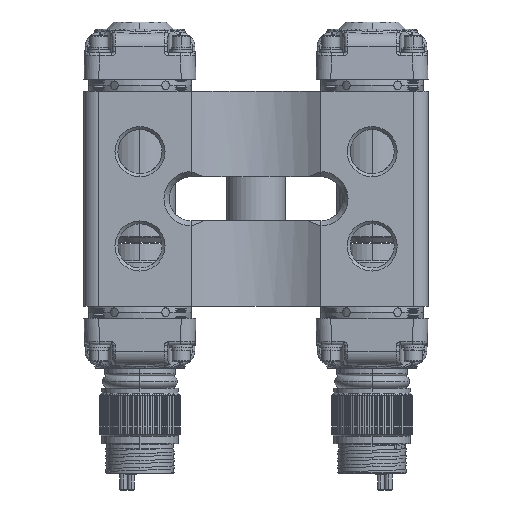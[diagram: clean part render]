
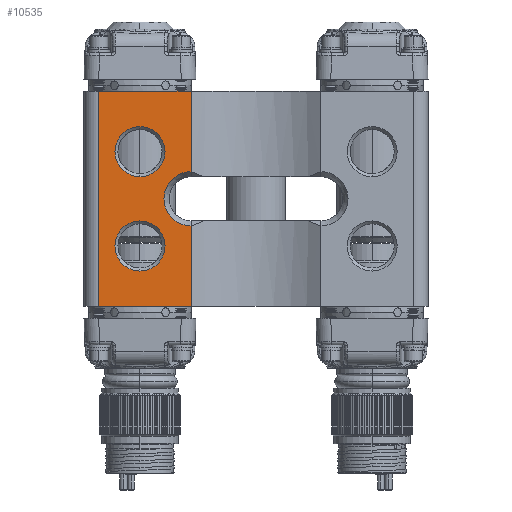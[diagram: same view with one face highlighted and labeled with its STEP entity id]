
A CAD part, front view. The second image highlights one B-rep face of the part: STEP entity #10535.
In plain terms, the highlighted planar face has unit normal (0, -1, 0).
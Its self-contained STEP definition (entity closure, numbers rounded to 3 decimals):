
#109 = EDGE_LOOP ( 'NONE', ( #6045, #27757, #17146, #57160, #78382, #1730 ) ) ;
#1730 = ORIENTED_EDGE ( 'NONE', *, *, #91123, .T. ) ;
#1858 = CARTESIAN_POINT ( 'NONE',  ( -27.94, -24.13, 0. ) ) ;
#2815 = DIRECTION ( 'NONE',  ( 1., 0., 0. ) ) ;
#3640 = VECTOR ( 'NONE', #99300, 1000. ) ;
#6045 = ORIENTED_EDGE ( 'NONE', *, *, #70470, .F. ) ;
#6917 = CARTESIAN_POINT ( 'NONE',  ( -27.984, -24.13, 11.725 ) ) ;
#7966 = FACE_BOUND ( 'NONE', #95011, .T. ) ;
#9252 = VECTOR ( 'NONE', #28666, 1000. ) ;
#9794 = CIRCLE ( 'NONE', #102255, 10.795 ) ;
#9878 = CARTESIAN_POINT ( 'NONE',  ( -50., -24.13, -31.115 ) ) ;
#10535 = ADVANCED_FACE ( 'NONE', ( #75864, #7966, #102748 ), #13418, .T. ) ;
#12039 = DIRECTION ( 'NONE',  ( 1., 0., 0. ) ) ;
#13418 = PLANE ( 'NONE',  #91133 ) ;
#13423 = DIRECTION ( 'NONE',  ( 0., 1., 0. ) ) ;
#14676 = DIRECTION ( 'NONE',  ( 0., 1., 0. ) ) ;
#17146 = ORIENTED_EDGE ( 'NONE', *, *, #35585, .T. ) ;
#19009 = ORIENTED_EDGE ( 'NONE', *, *, #23688, .T. ) ;
#20066 = VERTEX_POINT ( 'NONE', #39021 ) ;
#20688 = CIRCLE ( 'NONE', #48230, 10.795 ) ;
#21663 = VERTEX_POINT ( 'NONE', #130874 ) ;
#23688 = EDGE_CURVE ( 'NONE', #27506, #20066, #9794, .T. ) ;
#27131 = EDGE_CURVE ( 'NONE', #60078, #21663, #113575, .T. ) ;
#27506 = VERTEX_POINT ( 'NONE', #72865 ) ;
#27757 = ORIENTED_EDGE ( 'NONE', *, *, #108299, .T. ) ;
#28666 = DIRECTION ( 'NONE',  ( 0., 0., -1. ) ) ;
#29217 = AXIS2_PLACEMENT_3D ( 'NONE', #123791, #63325, #2815 ) ;
#35585 = EDGE_CURVE ( 'NONE', #98352, #93911, #118689, .T. ) ;
#36480 = DIRECTION ( 'NONE',  ( -1., 0., 0. ) ) ;
#36713 = AXIS2_PLACEMENT_3D ( 'NONE', #113702, #53258, #123871 ) ;
#37808 = EDGE_LOOP ( 'NONE', ( #128871, #19009 ) ) ;
#39021 = CARTESIAN_POINT ( 'NONE',  ( -50., -24.13, 9.525 ) ) ;
#40701 = CIRCLE ( 'NONE', #69536, 11.725 ) ;
#41066 = VERTEX_POINT ( 'NONE', #50215 ) ;
#43257 = VECTOR ( 'NONE', #36480, 1000. ) ;
#44269 = CARTESIAN_POINT ( 'NONE',  ( -67.818, -24.13, -46.355 ) ) ;
#48230 = AXIS2_PLACEMENT_3D ( 'NONE', #73859, #13423, #84047 ) ;
#48249 = EDGE_CURVE ( 'NONE', #41066, #93911, #66767, .T. ) ;
#50215 = CARTESIAN_POINT ( 'NONE',  ( -27.984, -24.13, -46.355 ) ) ;
#50943 = CARTESIAN_POINT ( 'NONE',  ( -27.984, -24.13, 46.355 ) ) ;
#53258 = DIRECTION ( 'NONE',  ( 0., 1., 0. ) ) ;
#55269 = VERTEX_POINT ( 'NONE', #125262 ) ;
#55322 = DIRECTION ( 'NONE',  ( 0., -1., 0. ) ) ;
#56700 = VERTEX_POINT ( 'NONE', #6917 ) ;
#57160 = ORIENTED_EDGE ( 'NONE', *, *, #48249, .F. ) ;
#60078 = VERTEX_POINT ( 'NONE', #9878 ) ;
#63325 = DIRECTION ( 'NONE',  ( 0., 1., 0. ) ) ;
#66767 = LINE ( 'NONE', #106975, #43257 ) ;
#69536 = AXIS2_PLACEMENT_3D ( 'NONE', #1858, #72523, #12039 ) ;
#70361 = ORIENTED_EDGE ( 'NONE', *, *, #27131, .T. ) ;
#70470 = EDGE_CURVE ( 'NONE', #78963, #56700, #113542, .T. ) ;
#72523 = DIRECTION ( 'NONE',  ( 0., 1., 0. ) ) ;
#72865 = CARTESIAN_POINT ( 'NONE',  ( -50., -24.13, 31.115 ) ) ;
#73859 = CARTESIAN_POINT ( 'NONE',  ( -50., -24.13, -20.32 ) ) ;
#75091 = CARTESIAN_POINT ( 'NONE',  ( -50., -24.13, 20.32 ) ) ;
#75159 = VECTOR ( 'NONE', #90593, 1000. ) ;
#75864 = FACE_BOUND ( 'NONE', #37808, .T. ) ;
#76573 = EDGE_CURVE ( 'NONE', #21663, #60078, #20688, .T. ) ;
#78382 = ORIENTED_EDGE ( 'NONE', *, *, #98123, .F. ) ;
#78452 = CARTESIAN_POINT ( 'NONE',  ( -27.984, -24.13, -46.355 ) ) ;
#78963 = VERTEX_POINT ( 'NONE', #50943 ) ;
#80376 = CARTESIAN_POINT ( 'NONE',  ( -27.984, -24.13, -46.355 ) ) ;
#82781 = DIRECTION ( 'NONE',  ( 0., 0., -1. ) ) ;
#84047 = DIRECTION ( 'NONE',  ( 1., 0., 0. ) ) ;
#84246 = LINE ( 'NONE', #119598, #3640 ) ;
#85276 = DIRECTION ( 'NONE',  ( 1., 0., 0. ) ) ;
#90593 = DIRECTION ( 'NONE',  ( 0., 0., -1. ) ) ;
#91123 = EDGE_CURVE ( 'NONE', #55269, #56700, #40701, .T. ) ;
#91133 = AXIS2_PLACEMENT_3D ( 'NONE', #115771, #55322, #125909 ) ;
#91875 = VECTOR ( 'NONE', #82781, 1000. ) ;
#93911 = VERTEX_POINT ( 'NONE', #44269 ) ;
#95011 = EDGE_LOOP ( 'NONE', ( #70361, #98961 ) ) ;
#98123 = EDGE_CURVE ( 'NONE', #55269, #41066, #125709, .T. ) ;
#98352 = VERTEX_POINT ( 'NONE', #125389 ) ;
#98961 = ORIENTED_EDGE ( 'NONE', *, *, #76573, .T. ) ;
#99300 = DIRECTION ( 'NONE',  ( -1., 0., 0. ) ) ;
#102255 = AXIS2_PLACEMENT_3D ( 'NONE', #75091, #14676, #85276 ) ;
#102748 = FACE_OUTER_BOUND ( 'NONE', #109, .T. ) ;
#103693 = EDGE_CURVE ( 'NONE', #20066, #27506, #130340, .T. ) ;
#106975 = CARTESIAN_POINT ( 'NONE',  ( 74.168, -24.13, -46.355 ) ) ;
#108299 = EDGE_CURVE ( 'NONE', #78963, #98352, #84246, .T. ) ;
#113542 = LINE ( 'NONE', #78452, #9252 ) ;
#113575 = CIRCLE ( 'NONE', #29217, 10.795 ) ;
#113702 = CARTESIAN_POINT ( 'NONE',  ( -50., -24.13, 20.32 ) ) ;
#115771 = CARTESIAN_POINT ( 'NONE',  ( 74.168, -24.13, 48.895 ) ) ;
#118689 = LINE ( 'NONE', #122967, #91875 ) ;
#119598 = CARTESIAN_POINT ( 'NONE',  ( 74.168, -24.13, 46.355 ) ) ;
#122967 = CARTESIAN_POINT ( 'NONE',  ( -67.818, -24.13, 48.895 ) ) ;
#123791 = CARTESIAN_POINT ( 'NONE',  ( -50., -24.13, -20.32 ) ) ;
#123871 = DIRECTION ( 'NONE',  ( 1., 0., 0. ) ) ;
#125262 = CARTESIAN_POINT ( 'NONE',  ( -27.984, -24.13, -11.725 ) ) ;
#125389 = CARTESIAN_POINT ( 'NONE',  ( -67.818, -24.13, 46.355 ) ) ;
#125709 = LINE ( 'NONE', #80376, #75159 ) ;
#125909 = DIRECTION ( 'NONE',  ( 1., 0., 0. ) ) ;
#128871 = ORIENTED_EDGE ( 'NONE', *, *, #103693, .T. ) ;
#130340 = CIRCLE ( 'NONE', #36713, 10.795 ) ;
#130874 = CARTESIAN_POINT ( 'NONE',  ( -50., -24.13, -9.525 ) ) ;
